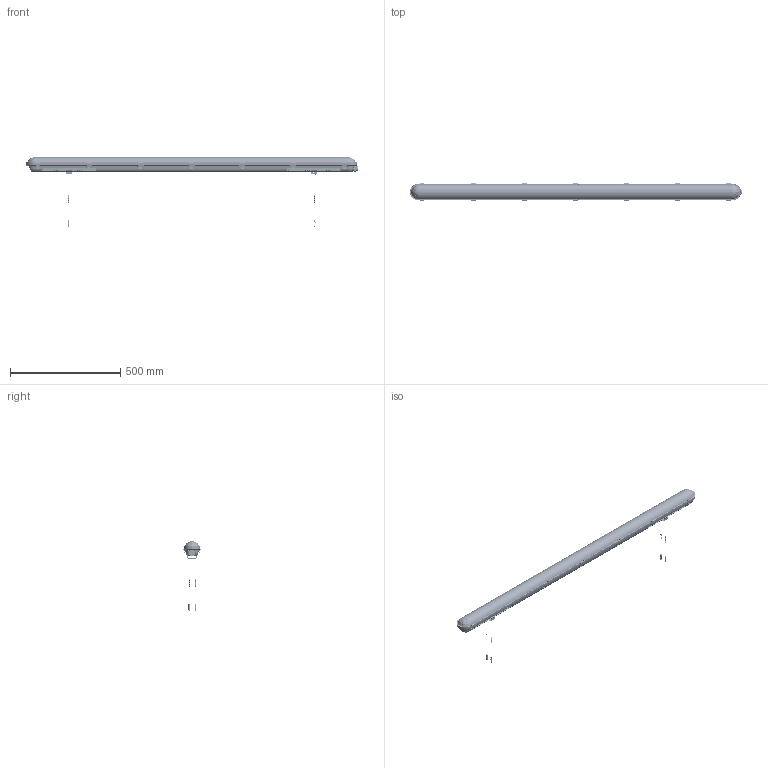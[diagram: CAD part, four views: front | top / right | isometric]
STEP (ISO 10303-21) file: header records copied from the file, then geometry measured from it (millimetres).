
FILE_DESCRIPTION(/* description */ (''),/* implementation_level */ '2;1');
FILE_NAME(/* name */ 'LG07Q-15',/* time_stamp */ '2025-10-28T07:41:11+08:00',/* author */ (''),/* organization */ (''),/* preprocessor_version */ 'ST-DEVELOPER v9',/* originating_system */ 'EDS PLM SOLUTIONS - UNIGRAPHICS NX 2.0',/* authorisation */ '');
FILE_SCHEMA (('AUTOMOTIVE_DESIGN { 1 0 10303 214 0 1 1 1 }'));
Products named in the file (1): Admi576Atdph
Bounding box: 1504.32 x 79.87 x 315.61 mm (x, y, z)
Volume: 773439.3 mm3; surface area: 1260741.4 mm2
Topology: 58 solids, 59 shells, 8147 faces, 22271 edges, 14400 vertices
Faces by surface type: plane 4319, cylinder 2781, bspline 560, torus 207, cone 166, sphere 64, extrusion 46, revolution 4
Full cylindrical faces by diameter (mm): 1.5 x2, 1.6 x70, 2.5 x4, 3 x4, 3.2 x2, 3.4 x18, 3.5 x4, 4 x12, 4.2 x4, 4.5 x2, 5 x1, 6 x14, 6.3 x1, 7 x2, 8 x2, 10.4 x2, 12.2 x1, 12.5 x2, 15.5 x2, 15.8 x2, 16 x2, 16.499 x1, 17.499 x5, 18.5 x14, 20 x2, 20.499 x5, 20.8 x2, 21 x6, 23 x1, 24 x2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
Entity records: 356820 total; most frequent: CARTESIAN_POINT 116803, ORIENTED_EDGE 43444, DIRECTION 39814, EDGE_CURVE 21722, VERTEX_POINT 14190, AXIS2_PLACEMENT_3D 13273, VECTOR 13264, LINE 13218
